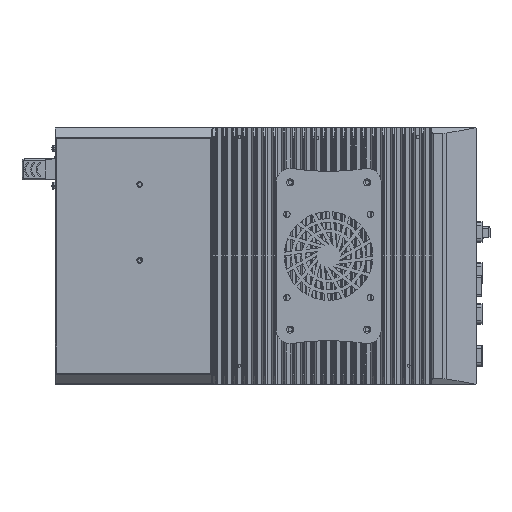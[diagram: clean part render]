
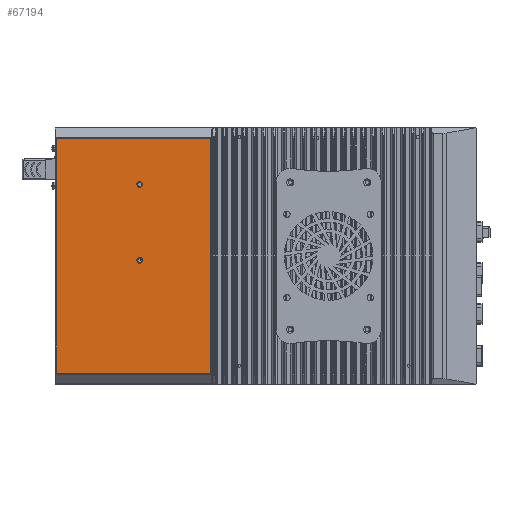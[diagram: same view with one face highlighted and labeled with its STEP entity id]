
A CAD part, front view. The second image highlights one B-rep face of the part: STEP entity #67194.
In plain terms, the highlighted planar face has unit normal (0, -1, 0).
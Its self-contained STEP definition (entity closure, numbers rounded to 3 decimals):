
#8172=CARTESIAN_POINT('',(-246.6,0.8,-100.295));
#8174=DIRECTION('',(0.,0.,-1.));
#8175=VECTOR('',#8174,200.73);
#8176=CARTESIAN_POINT('',(-246.6,0.8,100.435));
#8177=LINE('',#8176,#8175);
#8182=CARTESIAN_POINT('',(-246.6,0.8,100.435));
#8197=DIRECTION('',(1.,0.,0.));
#8198=VECTOR('',#8197,1.);
#8199=CARTESIAN_POINT('',(-247.6,0.8,100.435));
#8200=LINE('',#8199,#8198);
#8205=DIRECTION('',(0.,0.,1.));
#8206=VECTOR('',#8205,0.1);
#8207=CARTESIAN_POINT('',(-247.6,0.8,-100.395));
#8208=LINE('',#8207,#8206);
#8209=DIRECTION('',(1.,0.,0.));
#8210=VECTOR('',#8209,1.);
#8211=CARTESIAN_POINT('',(-247.6,0.8,-100.295));
#8212=LINE('',#8211,#8210);
#8213=DIRECTION('',(0.,0.,1.));
#8214=VECTOR('',#8213,0.1);
#8215=CARTESIAN_POINT('',(-247.6,0.8,100.435));
#8216=LINE('',#8215,#8214);
#8217=DIRECTION('',(0.,0.,-1.));
#8218=VECTOR('',#8217,201.8);
#8219=CARTESIAN_POINT('',(-114.6,0.8,
100.949));
#8220=LINE('',#8219,#8218);
#8221=DIRECTION('',(-1.,0.,0.));
#8222=VECTOR('',#8221,0.1);
#8223=CARTESIAN_POINT('',(-114.6,0.8,
-100.851));
#8224=LINE('',#8223,#8222);
#8225=DIRECTION('',(0.,0.,1.));
#8226=VECTOR('',#8225,0.456);
#8227=CARTESIAN_POINT('',(-114.7,0.8,-100.851));
#8228=LINE('',#8227,#8226);
#8229=CARTESIAN_POINT('',(-175.4,0.8,61.3));
#8230=DIRECTION('',(0.,-1.,0.));
#8231=DIRECTION('',(-1.,0.,0.));
#8232=AXIS2_PLACEMENT_3D('',#8229,#8230,#8231);
#8234=CARTESIAN_POINT('',(-175.4,0.8,61.3));
#8235=DIRECTION('',(0.,-1.,0.));
#8236=DIRECTION('',(0.,0.,-1.));
#8237=AXIS2_PLACEMENT_3D('',#8234,#8235,#8236);
#8239=CARTESIAN_POINT('',(-175.4,0.8,61.3));
#8240=DIRECTION('',(0.,-1.,0.));
#8241=DIRECTION('',(1.,0.,0.));
#8242=AXIS2_PLACEMENT_3D('',#8239,#8240,#8241);
#8244=CARTESIAN_POINT('',(-175.4,0.8,61.3));
#8245=DIRECTION('',(0.,-1.,0.));
#8246=DIRECTION('',(0.,0.,1.));
#8247=AXIS2_PLACEMENT_3D('',#8244,#8245,#8246);
#8249=CARTESIAN_POINT('',(-175.4,0.8,-3.7));
#8250=DIRECTION('',(0.,-1.,0.));
#8251=DIRECTION('',(-1.,0.,0.));
#8252=AXIS2_PLACEMENT_3D('',#8249,#8250,#8251);
#8254=CARTESIAN_POINT('',(-175.4,0.8,-3.7));
#8255=DIRECTION('',(0.,-1.,0.));
#8256=DIRECTION('',(0.,0.,-1.));
#8257=AXIS2_PLACEMENT_3D('',#8254,#8255,#8256);
#8259=CARTESIAN_POINT('',(-175.4,0.8,-3.7));
#8260=DIRECTION('',(0.,-1.,0.));
#8261=DIRECTION('',(1.,0.,0.));
#8262=AXIS2_PLACEMENT_3D('',#8259,#8260,#8261);
#8264=CARTESIAN_POINT('',(-175.4,0.8,-3.7));
#8265=DIRECTION('',(0.,-1.,0.));
#8266=DIRECTION('',(0.,0.,1.));
#8267=AXIS2_PLACEMENT_3D('',#8264,#8265,#8266);
#9091=DIRECTION('',(1.,0.,0.));
#9092=VECTOR('',#9091,132.9);
#9093=CARTESIAN_POINT('',(-247.6,0.8,-100.395));
#9094=LINE('',#9093,#9092);
#9257=DIRECTION('',(-1.,0.,0.));
#9258=VECTOR('',#9257,0.1);
#9259=CARTESIAN_POINT('',(-114.6,0.8,
100.949));
#9260=LINE('',#9259,#9258);
#9261=DIRECTION('',(0.,0.,-1.));
#9262=VECTOR('',#9261,0.414);
#9263=CARTESIAN_POINT('',(-114.7,0.8,100.949));
#9264=LINE('',#9263,#9262);
#9282=DIRECTION('',(-1.,0.,0.));
#9283=VECTOR('',#9282,132.9);
#9284=CARTESIAN_POINT('',(-114.7,0.8,100.535));
#9285=LINE('',#9284,#9283);
#44996=VERTEX_POINT('',#8172);
#44997=VERTEX_POINT('',#8182);
#45000=CARTESIAN_POINT('',(-247.6,0.8,100.435));
#45001=VERTEX_POINT('',#45000);
#45004=CARTESIAN_POINT('',(-247.6,0.8,-100.395));
#45005=CARTESIAN_POINT('',(-247.6,0.8,-100.295));
#45006=VERTEX_POINT('',#45004);
#45007=VERTEX_POINT('',#45005);
#45008=CARTESIAN_POINT('',(-247.6,0.8,100.535));
#45009=VERTEX_POINT('',#45008);
#45010=CARTESIAN_POINT('',(-114.7,0.8,100.535));
#45011=VERTEX_POINT('',#45010);
#45012=CARTESIAN_POINT('',(-114.7,0.8,100.949));
#45013=VERTEX_POINT('',#45012);
#45014=CARTESIAN_POINT('',(-114.6,0.8,
100.949));
#45015=VERTEX_POINT('',#45014);
#45016=CARTESIAN_POINT('',(-114.6,0.8,
-100.851));
#45017=VERTEX_POINT('',#45016);
#45018=CARTESIAN_POINT('',(-114.7,0.8,-100.851));
#45019=VERTEX_POINT('',#45018);
#45020=CARTESIAN_POINT('',(-114.7,0.8,-100.395));
#45021=VERTEX_POINT('',#45020);
#45022=CARTESIAN_POINT('',(-177.85,0.8,61.3));
#45023=CARTESIAN_POINT('',(-175.4,0.8,58.85));
#45024=VERTEX_POINT('',#45022);
#45025=VERTEX_POINT('',#45023);
#45026=CARTESIAN_POINT('',(-172.95,0.8,61.3));
#45027=VERTEX_POINT('',#45026);
#45028=CARTESIAN_POINT('',(-175.4,0.8,63.75));
#45029=VERTEX_POINT('',#45028);
#45030=CARTESIAN_POINT('',(-177.85,0.8,-3.7));
#45031=CARTESIAN_POINT('',(-175.4,0.8,-6.15));
#45032=VERTEX_POINT('',#45030);
#45033=VERTEX_POINT('',#45031);
#45034=CARTESIAN_POINT('',(-172.95,0.8,-3.7));
#45035=VERTEX_POINT('',#45034);
#45036=CARTESIAN_POINT('',(-175.4,0.8,-1.25));
#45037=VERTEX_POINT('',#45036);
#67145=CARTESIAN_POINT('',(-113.6,0.8,53.001));
#67146=DIRECTION('',(0.,-1.,0.));
#67147=DIRECTION('',(0.,0.,-1.));
#67148=AXIS2_PLACEMENT_3D('',#67145,#67146,#67147);
#67149=PLANE('',#67148);
#67151=ORIENTED_EDGE('',*,*,#67150,.T.);
#67153=ORIENTED_EDGE('',*,*,#67152,.T.);
#67154=ORIENTED_EDGE('',*,*,#67090,.F.);
#67155=ORIENTED_EDGE('',*,*,#67128,.F.);
#67157=ORIENTED_EDGE('',*,*,#67156,.T.);
#67159=ORIENTED_EDGE('',*,*,#67158,.F.);
#67161=ORIENTED_EDGE('',*,*,#67160,.F.);
#67163=ORIENTED_EDGE('',*,*,#67162,.F.);
#67165=ORIENTED_EDGE('',*,*,#67164,.T.);
#67167=ORIENTED_EDGE('',*,*,#67166,.T.);
#67169=ORIENTED_EDGE('',*,*,#67168,.T.);
#67171=ORIENTED_EDGE('',*,*,#67170,.F.);
#67172=EDGE_LOOP('',(#67151,#67153,#67154,#67155,#67157,#67159,#67161,#67163,
#67165,#67167,#67169,#67171));
#67173=FACE_OUTER_BOUND('',#67172,.F.);
#67175=ORIENTED_EDGE('',*,*,#67174,.T.);
#67177=ORIENTED_EDGE('',*,*,#67176,.T.);
#67179=ORIENTED_EDGE('',*,*,#67178,.T.);
#67181=ORIENTED_EDGE('',*,*,#67180,.T.);
#67182=EDGE_LOOP('',(#67175,#67177,#67179,#67181));
#67183=FACE_BOUND('',#67182,.F.);
#67185=ORIENTED_EDGE('',*,*,#67184,.T.);
#67187=ORIENTED_EDGE('',*,*,#67186,.T.);
#67189=ORIENTED_EDGE('',*,*,#67188,.T.);
#67191=ORIENTED_EDGE('',*,*,#67190,.T.);
#67192=EDGE_LOOP('',(#67185,#67187,#67189,#67191));
#67193=FACE_BOUND('',#67192,.F.);
#8233=CIRCLE('',#8232,2.45);
#8238=CIRCLE('',#8237,2.45);
#8243=CIRCLE('',#8242,2.45);
#8248=CIRCLE('',#8247,2.45);
#8253=CIRCLE('',#8252,2.45);
#8258=CIRCLE('',#8257,2.45);
#8263=CIRCLE('',#8262,2.45);
#8268=CIRCLE('',#8267,2.45);
#67090=EDGE_CURVE('',#44997,#44996,#8177,.T.);
#67128=EDGE_CURVE('',#45001,#44997,#8200,.T.);
#67150=EDGE_CURVE('',#45006,#45007,#8208,.T.);
#67152=EDGE_CURVE('',#45007,#44996,#8212,.T.);
#67156=EDGE_CURVE('',#45001,#45009,#8216,.T.);
#67158=EDGE_CURVE('',#45011,#45009,#9285,.T.);
#67160=EDGE_CURVE('',#45013,#45011,#9264,.T.);
#67162=EDGE_CURVE('',#45015,#45013,#9260,.T.);
#67164=EDGE_CURVE('',#45015,#45017,#8220,.T.);
#67166=EDGE_CURVE('',#45017,#45019,#8224,.T.);
#67168=EDGE_CURVE('',#45019,#45021,#8228,.T.);
#67170=EDGE_CURVE('',#45006,#45021,#9094,.T.);
#67174=EDGE_CURVE('',#45024,#45025,#8233,.T.);
#67176=EDGE_CURVE('',#45025,#45027,#8238,.T.);
#67178=EDGE_CURVE('',#45027,#45029,#8243,.T.);
#67180=EDGE_CURVE('',#45029,#45024,#8248,.T.);
#67184=EDGE_CURVE('',#45032,#45033,#8253,.T.);
#67186=EDGE_CURVE('',#45033,#45035,#8258,.T.);
#67188=EDGE_CURVE('',#45035,#45037,#8263,.T.);
#67190=EDGE_CURVE('',#45037,#45032,#8268,.T.);
#67194=ADVANCED_FACE('',(#67173,#67183,#67193),#67149,.T.);
